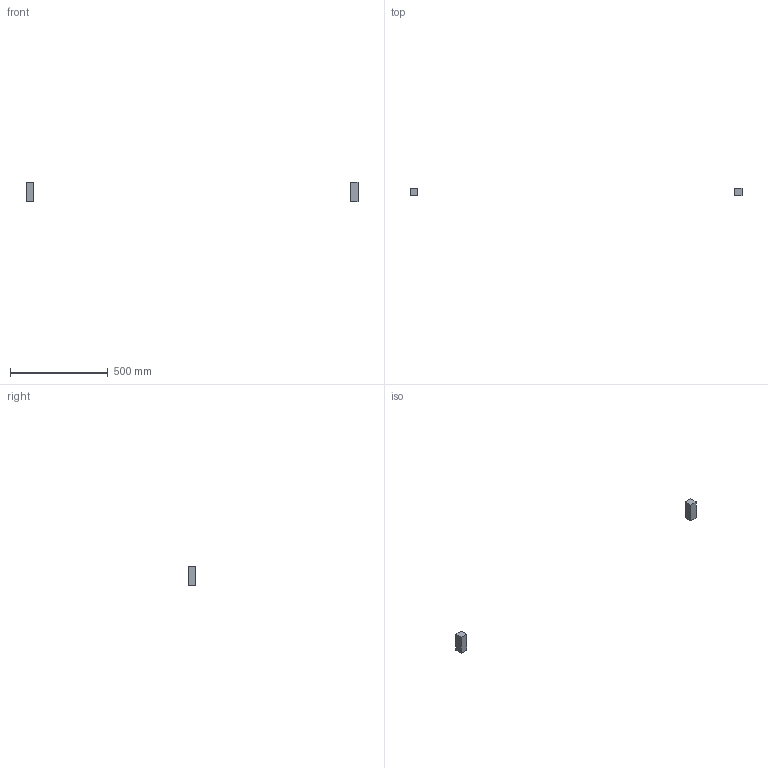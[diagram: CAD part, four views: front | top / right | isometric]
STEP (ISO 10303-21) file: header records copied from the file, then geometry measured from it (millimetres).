
FILE_DESCRIPTION(/* description */ (''),/* implementation_level */ '2;1');
FILE_NAME(/* name */ '3.frame-top#3.1#HFS5-4040-100',/* time_stamp */ '2014-12-01T20:11:46+01:00',/* author */ (''),/* organization */ (''),/* preprocessor_version */ 'ST-DEVELOPER v14',/* originating_system */ '',/* authorisation */ '');
FILE_SCHEMA (('AUTOMOTIVE_DESIGN'));
Length unit declared in the file: millimetre
Products named in the file (1): Document
Bounding box: 1700 x 40 x 100 mm (x, y, z)
Volume: 320000 mm3; surface area: 38400 mm2
Topology: 2 solids, 2 shells, 12 faces, 24 edges, 16 vertices
Faces by surface type: plane 12
Entity records: 571 total; most frequent: CARTESIAN_POINT 174, B_SPLINE_CURVE_WITH_KNOTS 72, ORIENTED_EDGE 48, PCURVE 48, DEFINITIONAL_REPRESENTATION 48, SURFACE_CURVE 24, EDGE_CURVE 24, VERTEX_POINT 16
